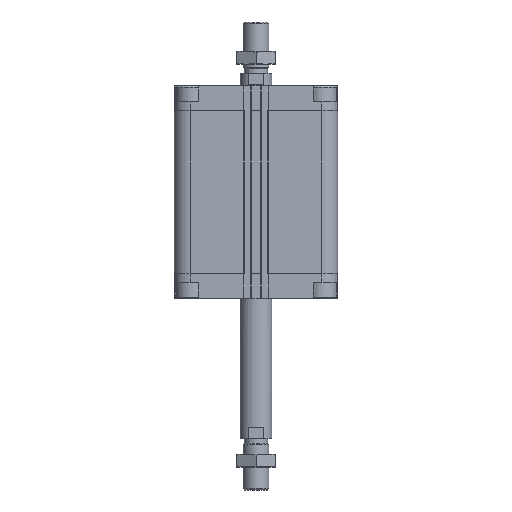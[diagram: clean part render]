
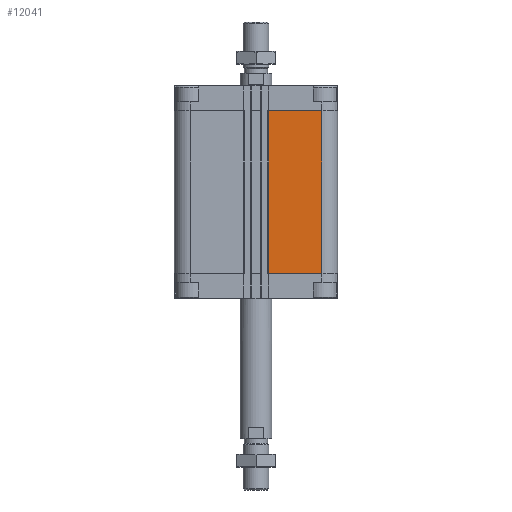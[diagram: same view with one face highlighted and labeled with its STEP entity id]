
A CAD part, front view. The second image highlights one B-rep face of the part: STEP entity #12041.
In plain terms, the highlighted planar face has unit normal (0, -1, 0).
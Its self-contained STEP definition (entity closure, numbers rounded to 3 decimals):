
#259 = PLANE ( 'NONE',  #19490 ) ;
#549 = CARTESIAN_POINT ( 'NONE',  ( 9.95, -64., -147. ) ) ;
#675 = VERTEX_POINT ( 'NONE', #7489 ) ;
#1082 = DIRECTION ( 'NONE',  ( 0., 0., 1. ) ) ;
#1271 = DIRECTION ( 'NONE',  ( 0., 0., 1. ) ) ;
#1458 = DIRECTION ( 'NONE',  ( 1., 0., 0. ) ) ;
#2010 = LINE ( 'NONE', #19946, #19741 ) ;
#4526 = VERTEX_POINT ( 'NONE', #549 ) ;
#7367 = LINE ( 'NONE', #10527, #17511 ) ;
#7489 = CARTESIAN_POINT ( 'NONE',  ( 51.5, -64., -147. ) ) ;
#9002 = DIRECTION ( 'NONE',  ( 1., 0., 0. ) ) ;
#9554 = ORIENTED_EDGE ( 'NONE', *, *, #15027, .T. ) ;
#10527 = CARTESIAN_POINT ( 'NONE',  ( 9.95, -64., -19.5 ) ) ;
#10947 = VERTEX_POINT ( 'NONE', #17321 ) ;
#11294 = FACE_OUTER_BOUND ( 'NONE', #22517, .T. ) ;
#12041 = ADVANCED_FACE ( 'NONE', ( #11294 ), #259, .T. ) ;
#14095 = ORIENTED_EDGE ( 'NONE', *, *, #21949, .T. ) ;
#15027 = EDGE_CURVE ( 'NONE', #4526, #675, #2010, .T. ) ;
#15131 = ORIENTED_EDGE ( 'NONE', *, *, #17836, .F. ) ;
#15162 = CARTESIAN_POINT ( 'NONE',  ( 9.95, -64., -147. ) ) ;
#15282 = LINE ( 'NONE', #15162, #15631 ) ;
#15631 = VECTOR ( 'NONE', #1082, 1000. ) ;
#15700 = CARTESIAN_POINT ( 'NONE',  ( 9.95, -64., -19.5 ) ) ;
#16201 = DIRECTION ( 'NONE',  ( -1., 0., 0. ) ) ;
#17321 = CARTESIAN_POINT ( 'NONE',  ( 51.5, -64., -19.5 ) ) ;
#17511 = VECTOR ( 'NONE', #9002, 1000. ) ;
#17640 = EDGE_CURVE ( 'NONE', #4526, #19860, #15282, .T. ) ;
#17836 = EDGE_CURVE ( 'NONE', #19860, #10947, #7367, .T. ) ;
#18297 = CARTESIAN_POINT ( 'NONE',  ( 9.95, -64., -147. ) ) ;
#18404 = DIRECTION ( 'NONE',  ( 0., -1., 0. ) ) ;
#18441 = ORIENTED_EDGE ( 'NONE', *, *, #17640, .F. ) ;
#19228 = CARTESIAN_POINT ( 'NONE',  ( 51.5, -64., -147. ) ) ;
#19490 = AXIS2_PLACEMENT_3D ( 'NONE', #18297, #18404, #16201 ) ;
#19741 = VECTOR ( 'NONE', #1458, 1000. ) ;
#19860 = VERTEX_POINT ( 'NONE', #15700 ) ;
#19946 = CARTESIAN_POINT ( 'NONE',  ( 9.95, -64., -147. ) ) ;
#21308 = VECTOR ( 'NONE', #1271, 1000. ) ;
#21949 = EDGE_CURVE ( 'NONE', #675, #10947, #22724, .T. ) ;
#22517 = EDGE_LOOP ( 'NONE', ( #15131, #18441, #9554, #14095 ) ) ;
#22724 = LINE ( 'NONE', #19228, #21308 ) ;
